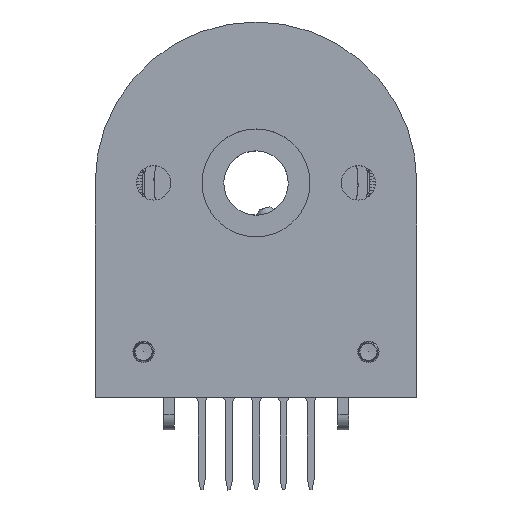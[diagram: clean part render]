
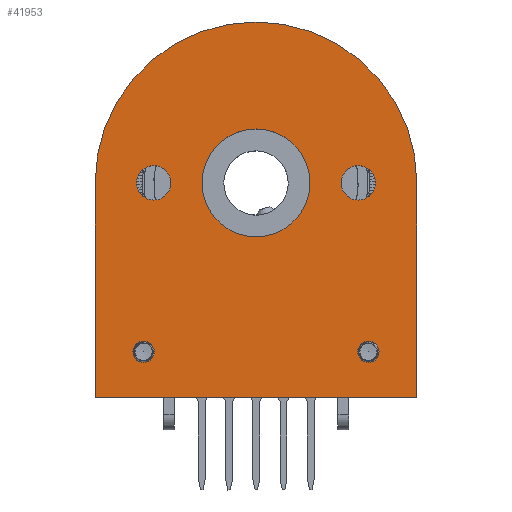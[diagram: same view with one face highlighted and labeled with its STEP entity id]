
A CAD part, top view. The second image highlights one B-rep face of the part: STEP entity #41953.
In plain terms, the highlighted planar face has unit normal (0, 0, 1).
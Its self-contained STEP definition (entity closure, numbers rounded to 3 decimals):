
#549 = CARTESIAN_POINT ( 'NONE',  ( 5.025, 0., 3.5 ) ) ;
#1465 = ORIENTED_EDGE ( 'NONE', *, *, #51769, .T. ) ;
#1708 = ORIENTED_EDGE ( 'NONE', *, *, #71266, .T. ) ;
#1807 = EDGE_CURVE ( 'NONE', #6704, #76236, #25187, .T. ) ;
#2430 = VECTOR ( 'NONE', #4641, 1000. ) ;
#3739 = CARTESIAN_POINT ( 'NONE',  ( 15., -20., 3.5 ) ) ;
#4054 = CARTESIAN_POINT ( 'NONE',  ( 0., 0., 3.5 ) ) ;
#4423 = DIRECTION ( 'NONE',  ( 0., 0., 1. ) ) ;
#4641 = DIRECTION ( 'NONE',  ( 0., 1., 0. ) ) ;
#6313 = EDGE_CURVE ( 'NONE', #35640, #35640, #67232, .T. ) ;
#6704 = VERTEX_POINT ( 'NONE', #58600 ) ;
#8633 = CARTESIAN_POINT ( 'NONE',  ( -15., -20., 3.5 ) ) ;
#9517 = AXIS2_PLACEMENT_3D ( 'NONE', #4054, #43224, #41909 ) ;
#11026 = AXIS2_PLACEMENT_3D ( 'NONE', #81433, #15675, #79711 ) ;
#11845 = ORIENTED_EDGE ( 'NONE', *, *, #18858, .T. ) ;
#13405 = CIRCLE ( 'NONE', #58692, 1. ) ;
#13550 = VERTEX_POINT ( 'NONE', #13973 ) ;
#13850 = CARTESIAN_POINT ( 'NONE',  ( 0., 0., 3.5 ) ) ;
#13973 = CARTESIAN_POINT ( 'NONE',  ( 7.925, 0., 3.5 ) ) ;
#15675 = DIRECTION ( 'NONE',  ( 0., 0., -1. ) ) ;
#16649 = EDGE_LOOP ( 'NONE', ( #56717 ) ) ;
#16667 = LINE ( 'NONE', #42949, #2430 ) ;
#16952 = PLANE ( 'NONE',  #9517 ) ;
#18858 = EDGE_CURVE ( 'NONE', #13550, #13550, #60635, .T. ) ;
#18887 = CARTESIAN_POINT ( 'NONE',  ( -10.48, -15.75, 3.5 ) ) ;
#18948 = ORIENTED_EDGE ( 'NONE', *, *, #75874, .F. ) ;
#18997 = CARTESIAN_POINT ( 'NONE',  ( -15., -20., 3.5 ) ) ;
#20277 = VERTEX_POINT ( 'NONE', #549 ) ;
#20501 = ORIENTED_EDGE ( 'NONE', *, *, #1807, .T. ) ;
#20999 = VERTEX_POINT ( 'NONE', #3739 ) ;
#22283 = AXIS2_PLACEMENT_3D ( 'NONE', #18887, #58873, #72173 ) ;
#22482 = CIRCLE ( 'NONE', #64997, 15. ) ;
#22644 = EDGE_LOOP ( 'NONE', ( #18948 ) ) ;
#23827 = FACE_BOUND ( 'NONE', #78573, .T. ) ;
#23879 = ORIENTED_EDGE ( 'NONE', *, *, #66151, .T. ) ;
#24335 = VECTOR ( 'NONE', #31614, 1000. ) ;
#25187 = LINE ( 'NONE', #62599, #24335 ) ;
#27765 = CARTESIAN_POINT ( 'NONE',  ( 9.525, 0., 3.5 ) ) ;
#28528 = VERTEX_POINT ( 'NONE', #68093 ) ;
#29597 = CARTESIAN_POINT ( 'NONE',  ( -11.125, 0., 3.5 ) ) ;
#31614 = DIRECTION ( 'NONE',  ( 0., -1., 0. ) ) ;
#31857 = CARTESIAN_POINT ( 'NONE',  ( 0., 0., 3.5 ) ) ;
#31898 = CIRCLE ( 'NONE', #22283, 1. ) ;
#31913 = LINE ( 'NONE', #18997, #62520 ) ;
#32909 = AXIS2_PLACEMENT_3D ( 'NONE', #31857, #4423, #36660 ) ;
#33792 = DIRECTION ( 'NONE',  ( -1., 0., 0. ) ) ;
#35432 = FACE_BOUND ( 'NONE', #22644, .T. ) ;
#35640 = VERTEX_POINT ( 'NONE', #29597 ) ;
#36660 = DIRECTION ( 'NONE',  ( 1., 0., 0. ) ) ;
#37178 = CARTESIAN_POINT ( 'NONE',  ( 15., 0., 3.5 ) ) ;
#39131 = DIRECTION ( 'NONE',  ( 0., 0., -1. ) ) ;
#40088 = DIRECTION ( 'NONE',  ( 1., 0., 0. ) ) ;
#40682 = EDGE_CURVE ( 'NONE', #28528, #28528, #13405, .T. ) ;
#40918 = DIRECTION ( 'NONE',  ( 0., 0., 1. ) ) ;
#41909 = DIRECTION ( 'NONE',  ( 1., 0., 0. ) ) ;
#41953 = ADVANCED_FACE ( 'NONE', ( #23827, #83096, #55623, #50458, #35432, #74967 ), #16952, .T. ) ;
#42949 = CARTESIAN_POINT ( 'NONE',  ( 15., -20., 3.5 ) ) ;
#43224 = DIRECTION ( 'NONE',  ( 0., 0., 1. ) ) ;
#45570 = VERTEX_POINT ( 'NONE', #37178 ) ;
#46690 = CIRCLE ( 'NONE', #32909, 5.025 ) ;
#50458 = FACE_BOUND ( 'NONE', #57203, .T. ) ;
#51037 = AXIS2_PLACEMENT_3D ( 'NONE', #27765, #39131, #33792 ) ;
#51769 = EDGE_CURVE ( 'NONE', #45570, #6704, #22482, .T. ) ;
#52131 = CARTESIAN_POINT ( 'NONE',  ( -11.48, -15.75, 3.5 ) ) ;
#53333 = ORIENTED_EDGE ( 'NONE', *, *, #40682, .T. ) ;
#55623 = FACE_BOUND ( 'NONE', #78799, .T. ) ;
#56717 = ORIENTED_EDGE ( 'NONE', *, *, #6313, .T. ) ;
#57203 = EDGE_LOOP ( 'NONE', ( #53333 ) ) ;
#58142 = DIRECTION ( 'NONE',  ( 1., 0., 0. ) ) ;
#58600 = CARTESIAN_POINT ( 'NONE',  ( -15., 0., 3.5 ) ) ;
#58692 = AXIS2_PLACEMENT_3D ( 'NONE', #79775, #66901, #60457 ) ;
#58873 = DIRECTION ( 'NONE',  ( 0., 0., -1. ) ) ;
#60457 = DIRECTION ( 'NONE',  ( -1., 0., 0. ) ) ;
#60635 = CIRCLE ( 'NONE', #51037, 1.6 ) ;
#62520 = VECTOR ( 'NONE', #58142, 1000. ) ;
#62599 = CARTESIAN_POINT ( 'NONE',  ( -15., -20., 3.5 ) ) ;
#64997 = AXIS2_PLACEMENT_3D ( 'NONE', #13850, #40918, #40088 ) ;
#66151 = EDGE_CURVE ( 'NONE', #20999, #45570, #16667, .T. ) ;
#66901 = DIRECTION ( 'NONE',  ( 0., 0., -1. ) ) ;
#67232 = CIRCLE ( 'NONE', #11026, 1.6 ) ;
#68093 = CARTESIAN_POINT ( 'NONE',  ( 9.48, -15.75, 3.5 ) ) ;
#70481 = ORIENTED_EDGE ( 'NONE', *, *, #84818, .T. ) ;
#71266 = EDGE_CURVE ( 'NONE', #76236, #20999, #31913, .T. ) ;
#71447 = VERTEX_POINT ( 'NONE', #52131 ) ;
#72173 = DIRECTION ( 'NONE',  ( -1., 0., 0. ) ) ;
#74967 = FACE_OUTER_BOUND ( 'NONE', #80827, .T. ) ;
#75874 = EDGE_CURVE ( 'NONE', #20277, #20277, #46690, .T. ) ;
#76236 = VERTEX_POINT ( 'NONE', #8633 ) ;
#78573 = EDGE_LOOP ( 'NONE', ( #11845 ) ) ;
#78799 = EDGE_LOOP ( 'NONE', ( #70481 ) ) ;
#79711 = DIRECTION ( 'NONE',  ( -1., 0., 0. ) ) ;
#79775 = CARTESIAN_POINT ( 'NONE',  ( 10.48, -15.75, 3.5 ) ) ;
#80827 = EDGE_LOOP ( 'NONE', ( #20501, #1708, #23879, #1465 ) ) ;
#81433 = CARTESIAN_POINT ( 'NONE',  ( -9.525, 0., 3.5 ) ) ;
#83096 = FACE_BOUND ( 'NONE', #16649, .T. ) ;
#84818 = EDGE_CURVE ( 'NONE', #71447, #71447, #31898, .T. ) ;
